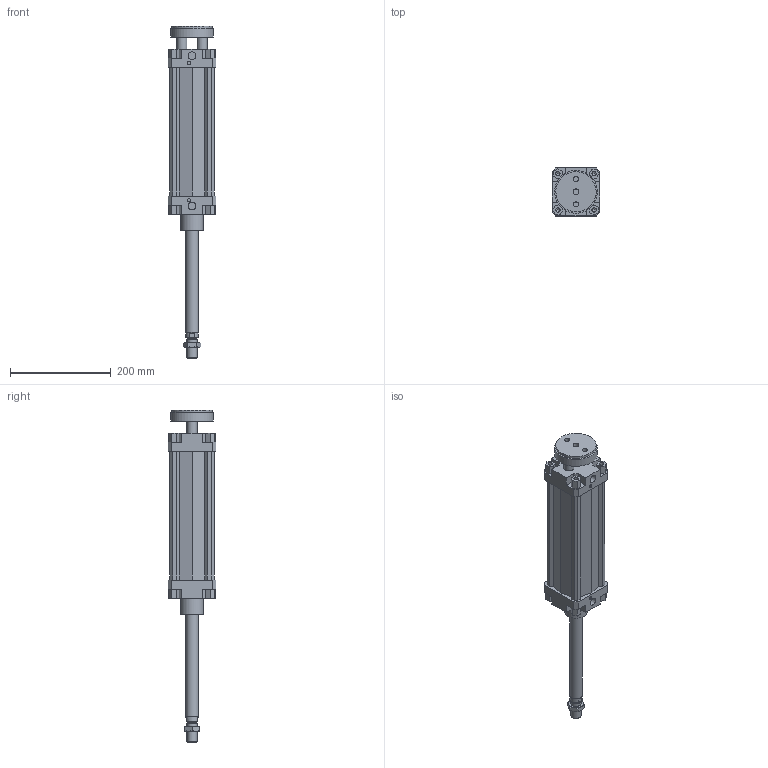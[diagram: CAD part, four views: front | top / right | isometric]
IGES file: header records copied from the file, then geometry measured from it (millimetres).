
Global section: file name: 132#_080_0200_02; native system: Autodesk Inventor 2014; preprocessor: unknown; author: A. Manieri; date: 20161006.162405; units: millimetre
Bounding box: 95 x 95 x 660 mm (x, y, z)
Volume: 1756793.9 mm3; surface area: 343563.9 mm2
Topology: 3 solids, 3 shells, 220 faces, 589 edges, 397 vertices
Faces by surface type: bspline 220
